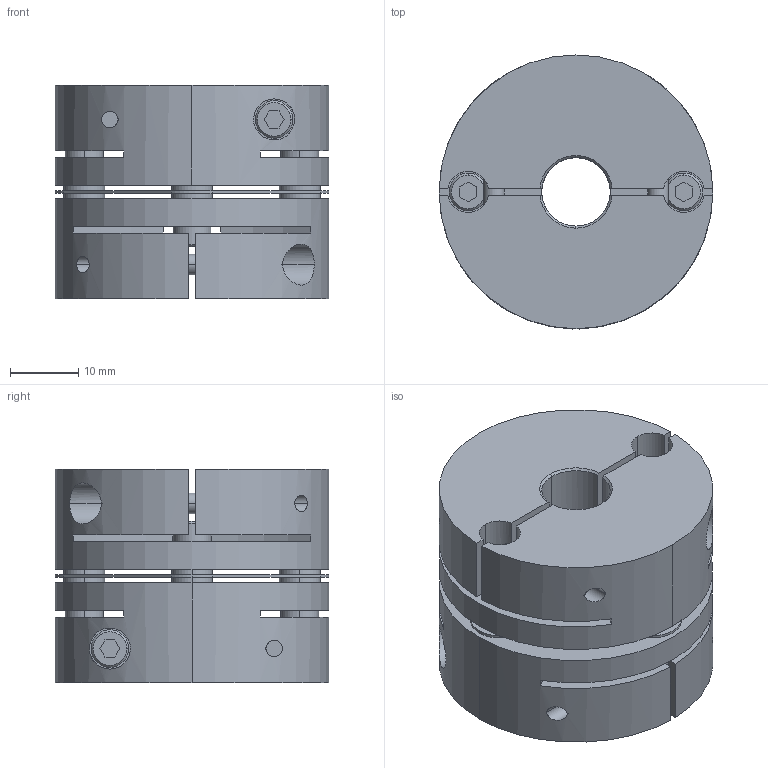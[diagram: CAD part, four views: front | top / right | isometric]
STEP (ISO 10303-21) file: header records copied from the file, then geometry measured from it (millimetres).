
FILE_DESCRIPTION((''),'2;1');
FILE_NAME('LAS-40C-10×12.stp','2011-08-11T08:47:38',(''),(''),'AutoCAD STEP 2000i','AutoCAD 2000i',', , ');
FILE_SCHEMA(('CONFIG_CONTROL_DESIGN'));
Length unit declared in the file: millimetre
Products named in the file (5): LAS-40C-10×10; 忣兜1; LA-4002-D10-1; LA-4002-D10; LAS40-ITA
Assembly tree (4 placements, depth 2):
  LAS-40C-10×10
    忣兜1
    LA-4002-D10-1
    LA-4002-D10
    LAS40-ITA
Bounding box: 40 x 40 x 31.2 mm (x, y, z)
Volume: 31163.9 mm3; surface area: 15505 mm2
Topology: 1 solids, 1 shells, 236 faces, 624 edges, 408 vertices
Faces by surface type: plane 112, cylinder 96, cone 28
Entity records: 8107 total; most frequent: CARTESIAN_POINT 1913, DIRECTION 1302, ORIENTED_EDGE 1248, EDGE_CURVE 624, AXIS2_PLACEMENT_3D 477, VERTEX_POINT 408, VECTOR 348, LINE 348
